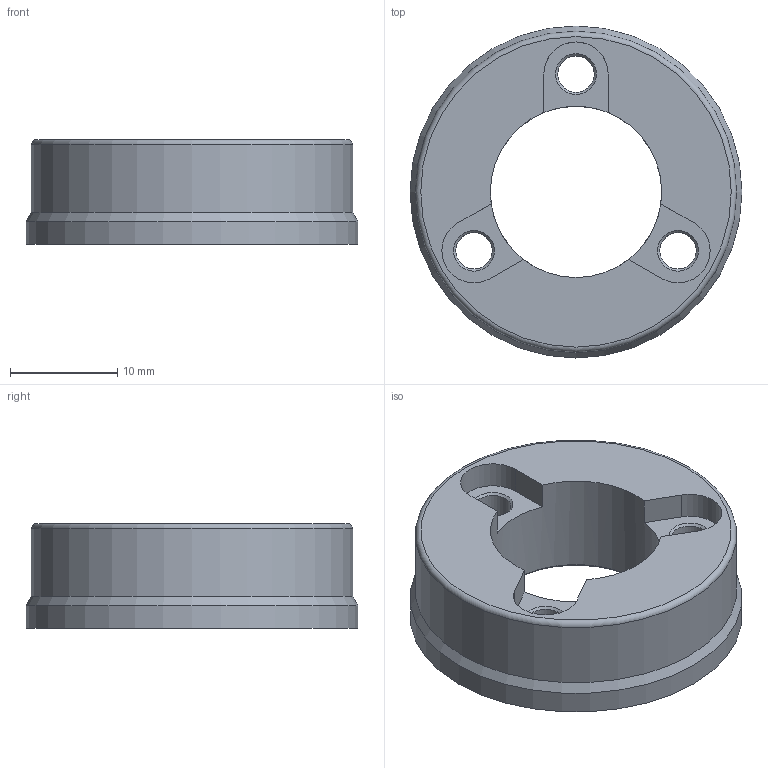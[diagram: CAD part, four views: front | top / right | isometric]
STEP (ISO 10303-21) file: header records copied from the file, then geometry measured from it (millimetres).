
FILE_DESCRIPTION(/* description */ (''),/* implementation_level */ '2;1');
FILE_NAME(/* name */ '32-3_flange_c.stp',/* time_stamp */ '2017-03-16T10:36:03+01:00',/* author */ ('DR. FRITZ FAULHABER GmbH & Co. KG'),/* organization */ ('DR. FRITZ FAULHABER GmbH & Co. KG'),/* preprocessor_version */ 'ST-DEVELOPER v16',/* originating_system */ 'SIEMENS PLM Software NX 10.0',/* authorisation */ '');
FILE_SCHEMA (('AUTOMOTIVE_DESIGN { 1 0 10303 214 3 1 1 1 }'));
Length unit declared in the file: millimetre
Products named in the file (1): F0009573700_A
Bounding box: 31 x 31 x 9.8 mm (x, y, z)
Volume: 4623.9 mm3; surface area: 2723.2 mm2
Topology: 1 solids, 1 shells, 26 faces, 65 edges, 41 vertices
Faces by surface type: plane 11, cylinder 9, cone 5, torus 1
Full cylindrical faces by diameter (mm): 3.4 x3, 16 x1, 30 x1, 31 x1
Entity records: 752 total; most frequent: DIRECTION 134, CARTESIAN_POINT 119, ORIENTED_EDGE 104, AXIS2_PLACEMENT_3D 55, EDGE_CURVE 52, EDGE_LOOP 46, VERTEX_POINT 40, FACE_BOUND 37
